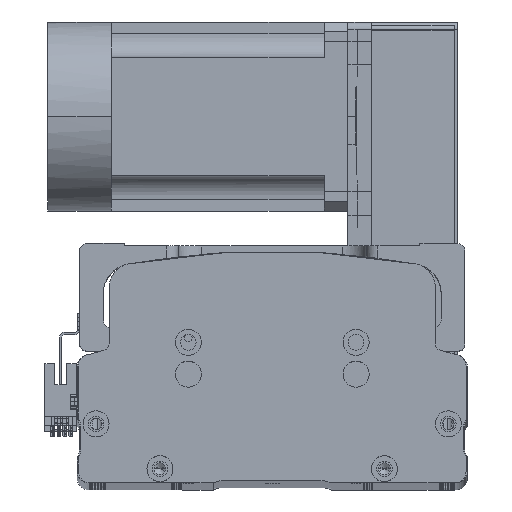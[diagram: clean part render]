
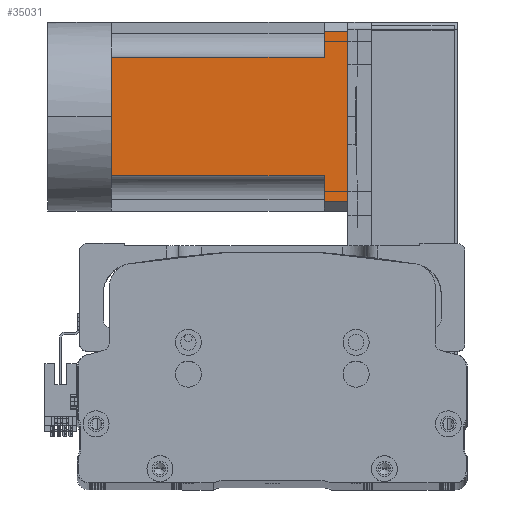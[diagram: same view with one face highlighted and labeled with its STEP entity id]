
A CAD part, top view. The second image highlights one B-rep face of the part: STEP entity #35031.
In plain terms, the highlighted planar face has unit normal (0, 0, 1) as drawn and (0, 0, -1) by its records, which use the part's own axes.
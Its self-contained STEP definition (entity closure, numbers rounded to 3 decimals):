
#498 = ORIENTED_EDGE ( 'NONE', *, *, #47378, .T. ) ;
#735 = DIRECTION ( 'NONE',  ( -1., 0., 0. ) ) ;
#1177 = ORIENTED_EDGE ( 'NONE', *, *, #43733, .T. ) ;
#4055 = CARTESIAN_POINT ( 'NONE',  ( 36., 100., -40. ) ) ;
#4497 = CARTESIAN_POINT ( 'NONE',  ( 25., 90., -40. ) ) ;
#4561 = CARTESIAN_POINT ( 'NONE',  ( 25., 0., -40. ) ) ;
#4700 = VERTEX_POINT ( 'NONE', #4561 ) ;
#5085 = CARTESIAN_POINT ( 'NONE',  ( -25., -27., -40. ) ) ;
#5804 = CARTESIAN_POINT ( 'NONE',  ( -40., 100., -40. ) ) ;
#7792 = VECTOR ( 'NONE', #28440, 1000. ) ;
#10266 = LINE ( 'NONE', #57386, #49051 ) ;
#11331 = EDGE_CURVE ( 'NONE', #31994, #31815, #48513, .T. ) ;
#12000 = VECTOR ( 'NONE', #21037, 1000. ) ;
#12060 = DIRECTION ( 'NONE',  ( 0., 0., -1. ) ) ;
#13341 = VECTOR ( 'NONE', #25974, 1000. ) ;
#13367 = EDGE_CURVE ( 'NONE', #53633, #28356, #42704, .T. ) ;
#14982 = EDGE_CURVE ( 'NONE', #68071, #24977, #35839, .T. ) ;
#14993 = LINE ( 'NONE', #57546, #13341 ) ;
#15444 = CARTESIAN_POINT ( 'NONE',  ( 36., -27., -40. ) ) ;
#15902 = AXIS2_PLACEMENT_3D ( 'NONE', #38582, #12060, #49169 ) ;
#21037 = DIRECTION ( 'NONE',  ( 0., 1., 0. ) ) ;
#23962 = CARTESIAN_POINT ( 'NONE',  ( -40., 90., -40. ) ) ;
#24977 = VERTEX_POINT ( 'NONE', #52020 ) ;
#25974 = DIRECTION ( 'NONE',  ( -1., 0., 0. ) ) ;
#26323 = EDGE_CURVE ( 'NONE', #4700, #68071, #35797, .T. ) ;
#28356 = VERTEX_POINT ( 'NONE', #56827 ) ;
#28427 = ORIENTED_EDGE ( 'NONE', *, *, #36484, .T. ) ;
#28440 = DIRECTION ( 'NONE',  ( -1., 0., 0. ) ) ;
#29555 = CARTESIAN_POINT ( 'NONE',  ( -36., 90., -40. ) ) ;
#31815 = VERTEX_POINT ( 'NONE', #29555 ) ;
#31994 = VERTEX_POINT ( 'NONE', #68317 ) ;
#32903 = CARTESIAN_POINT ( 'NONE',  ( -40., 0., -40. ) ) ;
#33570 = CARTESIAN_POINT ( 'NONE',  ( 36., 90., -40. ) ) ;
#33695 = CARTESIAN_POINT ( 'NONE',  ( -40., 0., -40. ) ) ;
#35031 = ADVANCED_FACE ( 'NONE', ( #41640 ), #43852, .T. ) ;
#35794 = VECTOR ( 'NONE', #65966, 1000. ) ;
#35797 = LINE ( 'NONE', #32903, #49845 ) ;
#35839 = LINE ( 'NONE', #33695, #7792 ) ;
#35910 = DIRECTION ( 'NONE',  ( 0., 1., 0. ) ) ;
#36484 = EDGE_CURVE ( 'NONE', #58329, #38944, #14993, .T. ) ;
#37856 = CARTESIAN_POINT ( 'NONE',  ( 0., 0., -40. ) ) ;
#38582 = CARTESIAN_POINT ( 'NONE',  ( -40., -27., -40. ) ) ;
#38944 = VERTEX_POINT ( 'NONE', #4497 ) ;
#40041 = LINE ( 'NONE', #5085, #12000 ) ;
#41640 = FACE_OUTER_BOUND ( 'NONE', #58385, .T. ) ;
#42704 = LINE ( 'NONE', #5804, #67545 ) ;
#43733 = EDGE_CURVE ( 'NONE', #31815, #28356, #10266, .T. ) ;
#43852 = PLANE ( 'NONE',  #15902 ) ;
#44335 = ORIENTED_EDGE ( 'NONE', *, *, #26323, .T. ) ;
#45911 = ORIENTED_EDGE ( 'NONE', *, *, #14982, .T. ) ;
#45959 = ORIENTED_EDGE ( 'NONE', *, *, #54924, .T. ) ;
#47001 = DIRECTION ( 'NONE',  ( 0., -1., 0. ) ) ;
#47378 = EDGE_CURVE ( 'NONE', #24977, #31994, #40041, .T. ) ;
#48180 = EDGE_CURVE ( 'NONE', #38944, #4700, #65599, .T. ) ;
#48513 = LINE ( 'NONE', #23962, #59285 ) ;
#49051 = VECTOR ( 'NONE', #35910, 1000. ) ;
#49169 = DIRECTION ( 'NONE',  ( -1., 0., 0. ) ) ;
#49845 = VECTOR ( 'NONE', #64581, 1000. ) ;
#51432 = ORIENTED_EDGE ( 'NONE', *, *, #48180, .T. ) ;
#52020 = CARTESIAN_POINT ( 'NONE',  ( -25., 0., -40. ) ) ;
#53633 = VERTEX_POINT ( 'NONE', #4055 ) ;
#54924 = EDGE_CURVE ( 'NONE', #53633, #58329, #56020, .T. ) ;
#55528 = DIRECTION ( 'NONE',  ( -1., 0., 0. ) ) ;
#56020 = LINE ( 'NONE', #15444, #68429 ) ;
#56132 = ORIENTED_EDGE ( 'NONE', *, *, #11331, .T. ) ;
#56827 = CARTESIAN_POINT ( 'NONE',  ( -36., 100., -40. ) ) ;
#57386 = CARTESIAN_POINT ( 'NONE',  ( -36., -27., -40. ) ) ;
#57546 = CARTESIAN_POINT ( 'NONE',  ( -40., 90., -40. ) ) ;
#58329 = VERTEX_POINT ( 'NONE', #33570 ) ;
#58385 = EDGE_LOOP ( 'NONE', ( #60795, #45959, #28427, #51432, #44335, #45911, #498, #56132, #1177 ) ) ;
#59285 = VECTOR ( 'NONE', #55528, 1000. ) ;
#60629 = CARTESIAN_POINT ( 'NONE',  ( 25., -27., -40. ) ) ;
#60795 = ORIENTED_EDGE ( 'NONE', *, *, #13367, .F. ) ;
#64581 = DIRECTION ( 'NONE',  ( -1., 0., 0. ) ) ;
#65599 = LINE ( 'NONE', #60629, #35794 ) ;
#65966 = DIRECTION ( 'NONE',  ( 0., -1., 0. ) ) ;
#67545 = VECTOR ( 'NONE', #735, 1000. ) ;
#68071 = VERTEX_POINT ( 'NONE', #37856 ) ;
#68317 = CARTESIAN_POINT ( 'NONE',  ( -25., 90., -40. ) ) ;
#68429 = VECTOR ( 'NONE', #47001, 1000. ) ;
